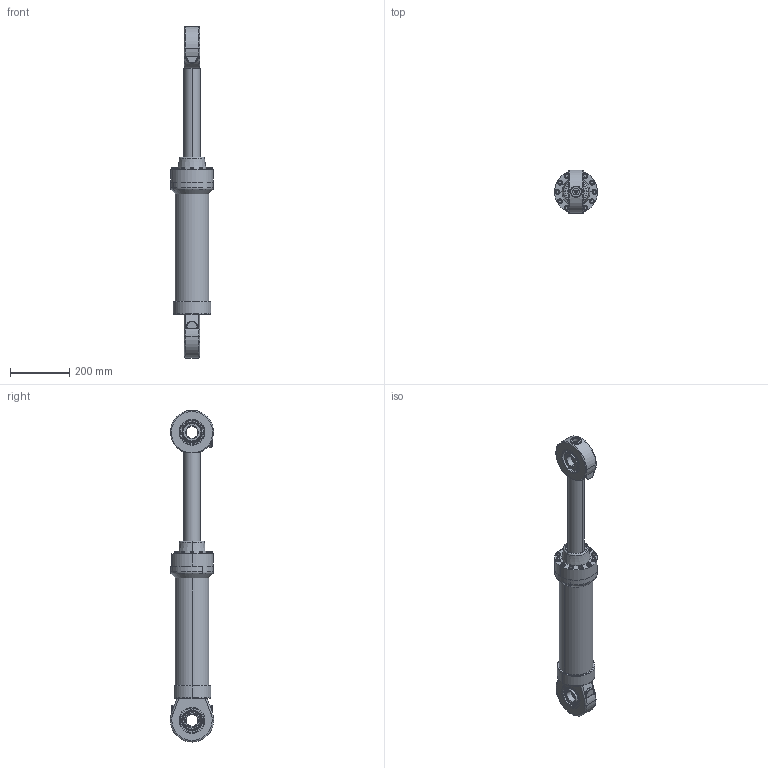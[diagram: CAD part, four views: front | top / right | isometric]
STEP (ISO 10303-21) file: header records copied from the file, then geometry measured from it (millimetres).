
FILE_DESCRIPTION (( 'STEP AP214' ), '1' );
FILE_NAME ('Assem1 Hydraulic Cylinder Assembly.STEP', '2026-04-17T06:13:01', ( '' ), ( '' ), 'SwSTEP 2.0', 'SolidWorks 2026', '' );
FILE_SCHEMA (( 'AUTOMOTIVE_DESIGN' ));
Length unit declared in the file: millimetre
Products named in the file (12): Part5 End Cap; Part3 Piston; Part9 Rear Clevis; Part1 Barrel; angular contact ball bearing_68_skf_SKF - 7308 BE - 10,DE,AC,10_68; Part2 Piston Rod; Part7 Front Cap; Part8 Front Clevis; Part4 Piston Cap; Assem1 Hydraulic Cylinder Assembly; hex flange screw_am_B18.2.3.4M - Hex flange screw, M8 x 1.25 x 50 --22S; Part6 Barrel Cap
Assembly tree (24 placements, depth 2):
  Assem1 Hydraulic Cylinder Assembly
    Part1 Barrel
    Part2 Piston Rod
    Part3 Piston
    Part4 Piston Cap
    Part6 Barrel Cap
    Part7 Front Cap
    Part8 Front Clevis
    Part9 Rear Clevis
    Part5 End Cap
    hex flange screw_am_B18.2.3.4M - Hex flange screw, M8 x 1.25 x 50 --22S  x11
    angular contact ball bearing_68_skf_SKF - 7308 BE - 10,DE,AC,10_68  x4
Bounding box: 145 x 146 x 1120.8 mm (x, y, z)
Volume: 6123061.1 mm3; surface area: 884052.7 mm2
Topology: 24 solids, 24 shells, 2462 faces, 6648 edges, 4214 vertices
Faces by surface type: cone 962, cylinder 656, sphere 320, plane 266, torus 179, bspline 79
Entity records: 28017 total; most frequent: CARTESIAN_POINT 11831, DIRECTION 3488, ORIENTED_EDGE 3260, EDGE_CURVE 1630, AXIS2_PLACEMENT_3D 1548, VERTEX_POINT 1034, CIRCLE 898, EDGE_LOOP 760
